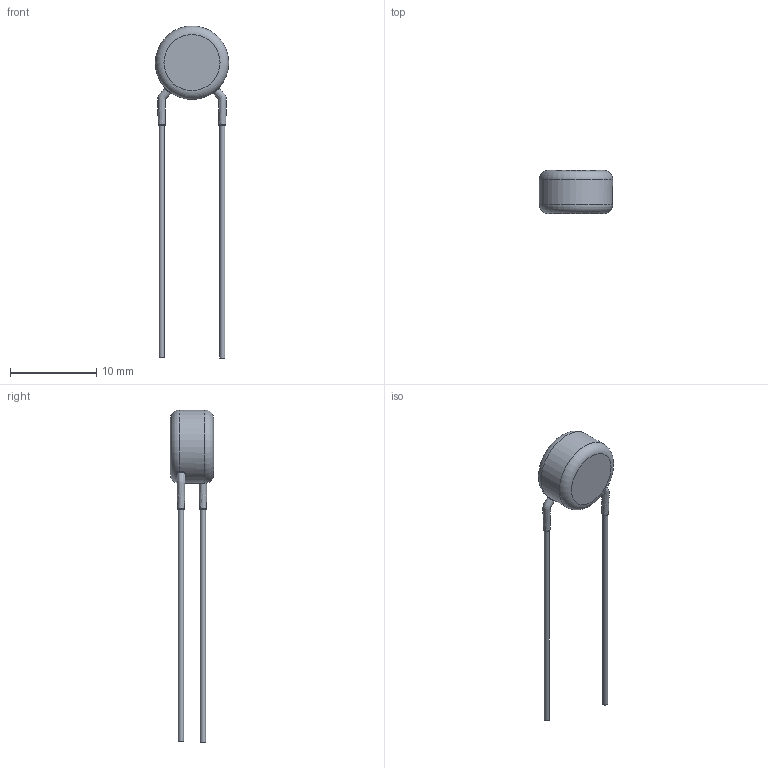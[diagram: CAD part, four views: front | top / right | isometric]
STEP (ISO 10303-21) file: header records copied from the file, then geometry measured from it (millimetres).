
FILE_DESCRIPTION(/* description */ (''),/* implementation_level */ '2;1');
FILE_NAME(/* name */ 'I:\Marketing\M6t1\3D-Models\Zchng-Werk-3\Upload for homepage\BCC neu\AY2 Straight\Step\AY2152#31Y5US63L7.stp',/* time_stamp */ '2023-07-13T14:08:12+02:00',/* author */ ('truediger'),/* organization */ (''),/* preprocessor_version */ 'ST-DEVELOPER v18',/* originating_system */ 'Autodesk Inventor 2020',/* authorisation */ '');
FILE_SCHEMA (('AUTOMOTIVE_DESIGN { 1 0 10303 214 3 1 1 }'));
Length unit declared in the file: millimetre
Products named in the file (1): Bauteil2
Bounding box: 8.5 x 5 x 38.5 mm (x, y, z)
Volume: 293.3 mm3; surface area: 348 mm2
Topology: 1 solids, 1 shells, 19 faces, 43 edges, 28 vertices
Faces by surface type: bspline 8, plane 6, cylinder 3, torus 2
Full cylindrical faces by diameter (mm): 0.6 x2, 8.5 x1
Entity records: 1480 total; most frequent: CARTESIAN_POINT 1019, ORIENTED_EDGE 86, DIRECTION 75, EDGE_CURVE 43, AXIS2_PLACEMENT_3D 36, VERTEX_POINT 28, CIRCLE 24, EDGE_LOOP 21
